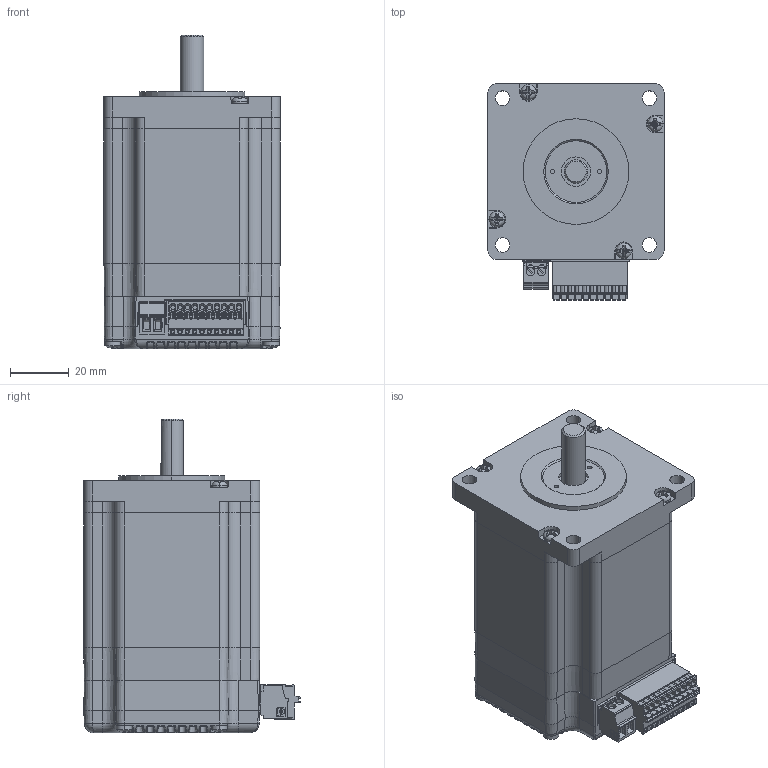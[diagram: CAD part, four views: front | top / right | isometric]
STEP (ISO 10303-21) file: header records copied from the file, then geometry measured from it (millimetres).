
FILE_DESCRIPTION (( 'STEP AP214' ), '1' );
FILE_NAME ('IG60E22.STEP', '2022-12-20T09:10:28', ( '' ), ( '' ), 'SwSTEP 2.0', 'SolidWorks 2022', '' );
FILE_SCHEMA (( 'AUTOMOTIVE_DESIGN' ));
Length unit declared in the file: millimetre
Products named in the file (5): IG60驱动; IG60E22; 3.81x2p-GR-脣芛; IG60萇儂-蚾饜极蚚; 傷赽脣芛
Assembly tree (4 placements, depth 2):
  IG60E22
    IG60萇儂-蚾饜极蚚
    IG60驱动
    傷赽脣芛
    3.81x2p-GR-脣芛
Bounding box: 60 x 73.79 x 107 mm (x, y, z)
Volume: 246463.7 mm3; surface area: 58940.9 mm2
Topology: 9 solids, 9 shells, 4985 faces, 13428 edges, 8598 vertices
Faces by surface type: plane 2958, cylinder 1225, bspline 422, cone 196, torus 126, sphere 58
Entity records: 221283 total; most frequent: CARTESIAN_POINT 60342, ORIENTED_EDGE 26724, DIRECTION 23673, EDGE_CURVE 13362, LINE 9043, VECTOR 9043, VERTEX_POINT 8592, AXIS2_PLACEMENT_3D 7315
